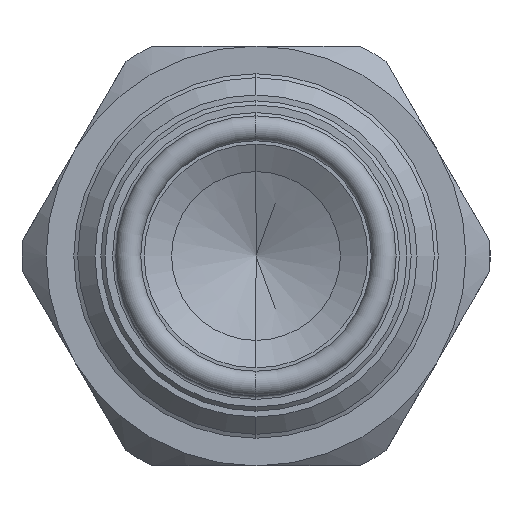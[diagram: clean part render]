
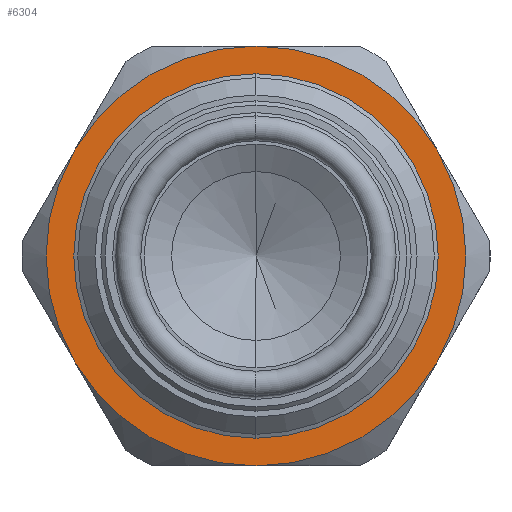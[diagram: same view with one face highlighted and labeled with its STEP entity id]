
A CAD part, left-side view. The second image highlights one B-rep face of the part: STEP entity #6304.
In plain terms, the highlighted planar face has unit normal (-1, 0, 0).
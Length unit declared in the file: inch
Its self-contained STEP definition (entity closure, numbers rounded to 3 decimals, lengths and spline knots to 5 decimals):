
#363 = DIRECTION ( 'NONE',  ( -1., 0., 0. ) ) ;
#815 = CIRCLE ( 'NONE', #11783, 0.3835 ) ;
#827 = AXIS2_PLACEMENT_3D ( 'NONE', #3417, #8620, #16223 ) ;
#979 = DIRECTION ( 'NONE',  ( -1., 0., 0. ) ) ;
#994 = DIRECTION ( 'NONE',  ( -1., 0., 0. ) ) ;
#1114 = CIRCLE ( 'NONE', #13928, 0.5 ) ;
#1232 = FACE_OUTER_BOUND ( 'NONE', #8002, .T. ) ;
#1289 = ORIENTED_EDGE ( 'NONE', *, *, #12551, .T. ) ;
#1352 = CARTESIAN_POINT ( 'NONE',  ( 0.7495, 0., -0.5 ) ) ;
#1522 = DIRECTION ( 'NONE',  ( 0., 0., 1. ) ) ;
#1613 = AXIS2_PLACEMENT_3D ( 'NONE', #12085, #2953, #4452 ) ;
#1869 = AXIS2_PLACEMENT_3D ( 'NONE', #7338, #4509, #6081 ) ;
#2408 = DIRECTION ( 'NONE',  ( 0., 0., 1. ) ) ;
#2429 = CIRCLE ( 'NONE', #7231, 0.5 ) ;
#2953 = DIRECTION ( 'NONE',  ( -1., 0., 0. ) ) ;
#3417 = CARTESIAN_POINT ( 'NONE',  ( 0.7495, 0., 0. ) ) ;
#3597 = ORIENTED_EDGE ( 'NONE', *, *, #7559, .T. ) ;
#3829 = FACE_BOUND ( 'NONE', #5853, .T. ) ;
#4020 = VERTEX_POINT ( 'NONE', #15167 ) ;
#4028 = CIRCLE ( 'NONE', #1613, 0.5 ) ;
#4346 = DIRECTION ( 'NONE',  ( 0., 0., 1. ) ) ;
#4362 = ORIENTED_EDGE ( 'NONE', *, *, #6320, .T. ) ;
#4452 = DIRECTION ( 'NONE',  ( 0., 0., 1. ) ) ;
#4500 = CARTESIAN_POINT ( 'NONE',  ( 0.7495, 0., 0. ) ) ;
#4509 = DIRECTION ( 'NONE',  ( -1., 0., 0. ) ) ;
#5113 = CARTESIAN_POINT ( 'NONE',  ( 0.7495, 0., 0.3835 ) ) ;
#5330 = DIRECTION ( 'NONE',  ( 0., 0., 1. ) ) ;
#5523 = ORIENTED_EDGE ( 'NONE', *, *, #6855, .T. ) ;
#5733 = ORIENTED_EDGE ( 'NONE', *, *, #11055, .F. ) ;
#5775 = PLANE ( 'NONE',  #1869 ) ;
#5853 = EDGE_LOOP ( 'NONE', ( #5733, #16495 ) ) ;
#6081 = DIRECTION ( 'NONE',  ( 0., 0., 1. ) ) ;
#6304 = ADVANCED_FACE ( 'NONE', ( #1232, #3829 ), #5775, .T. ) ;
#6320 = EDGE_CURVE ( 'NONE', #7125, #4020, #14973, .T. ) ;
#6708 = CARTESIAN_POINT ( 'NONE',  ( 0.7495, 0., 0. ) ) ;
#6855 = EDGE_CURVE ( 'NONE', #8997, #16473, #4028, .T. ) ;
#7125 = VERTEX_POINT ( 'NONE', #1352 ) ;
#7127 = VERTEX_POINT ( 'NONE', #5113 ) ;
#7231 = AXIS2_PLACEMENT_3D ( 'NONE', #13870, #994, #2408 ) ;
#7338 = CARTESIAN_POINT ( 'NONE',  ( 0.7495, 0., 0. ) ) ;
#7491 = VERTEX_POINT ( 'NONE', #11805 ) ;
#7504 = CIRCLE ( 'NONE', #827, 0.5 ) ;
#7559 = EDGE_CURVE ( 'NONE', #10045, #7491, #10191, .T. ) ;
#7763 = AXIS2_PLACEMENT_3D ( 'NONE', #12457, #979, #10022 ) ;
#7778 = CIRCLE ( 'NONE', #11514, 0.3835 ) ;
#8002 = EDGE_LOOP ( 'NONE', ( #16088, #3597, #1289, #5523, #15264, #4362 ) ) ;
#8283 = DIRECTION ( 'NONE',  ( -1., 0., 0. ) ) ;
#8620 = DIRECTION ( 'NONE',  ( -1., 0., 0. ) ) ;
#8996 = CARTESIAN_POINT ( 'NONE',  ( 0.7495, 0., -0.3835 ) ) ;
#8997 = VERTEX_POINT ( 'NONE', #9008 ) ;
#9008 = CARTESIAN_POINT ( 'NONE',  ( 0.7495, 0.43301, 0.25 ) ) ;
#10022 = DIRECTION ( 'NONE',  ( 0., 0., 1. ) ) ;
#10045 = VERTEX_POINT ( 'NONE', #14106 ) ;
#10191 = CIRCLE ( 'NONE', #15257, 0.5 ) ;
#10648 = CARTESIAN_POINT ( 'NONE',  ( 0.7495, 0.43301, -0.25 ) ) ;
#10845 = EDGE_CURVE ( 'NONE', #13992, #7127, #815, .T. ) ;
#11055 = EDGE_CURVE ( 'NONE', #7127, #13992, #7778, .T. ) ;
#11514 = AXIS2_PLACEMENT_3D ( 'NONE', #6708, #363, #1522 ) ;
#11588 = EDGE_CURVE ( 'NONE', #4020, #10045, #7504, .T. ) ;
#11650 = EDGE_CURVE ( 'NONE', #16473, #7125, #2429, .T. ) ;
#11783 = AXIS2_PLACEMENT_3D ( 'NONE', #12121, #13284, #5330 ) ;
#11805 = CARTESIAN_POINT ( 'NONE',  ( 0.7495, 0., 0.5 ) ) ;
#11895 = CARTESIAN_POINT ( 'NONE',  ( 0.7495, 0., 0. ) ) ;
#12085 = CARTESIAN_POINT ( 'NONE',  ( 0.7495, 0., 0. ) ) ;
#12121 = CARTESIAN_POINT ( 'NONE',  ( 0.7495, 0., 0. ) ) ;
#12144 = DIRECTION ( 'NONE',  ( 0., 0., 1. ) ) ;
#12457 = CARTESIAN_POINT ( 'NONE',  ( 0.7495, 0., 0. ) ) ;
#12551 = EDGE_CURVE ( 'NONE', #7491, #8997, #1114, .T. ) ;
#13284 = DIRECTION ( 'NONE',  ( -1., 0., 0. ) ) ;
#13384 = DIRECTION ( 'NONE',  ( -1., 0., 0. ) ) ;
#13870 = CARTESIAN_POINT ( 'NONE',  ( 0.7495, 0., 0. ) ) ;
#13928 = AXIS2_PLACEMENT_3D ( 'NONE', #11895, #13384, #12144 ) ;
#13992 = VERTEX_POINT ( 'NONE', #8996 ) ;
#14106 = CARTESIAN_POINT ( 'NONE',  ( 0.7495, -0.43301, 0.25 ) ) ;
#14973 = CIRCLE ( 'NONE', #7763, 0.5 ) ;
#15167 = CARTESIAN_POINT ( 'NONE',  ( 0.7495, -0.43301, -0.25 ) ) ;
#15257 = AXIS2_PLACEMENT_3D ( 'NONE', #4500, #8283, #4346 ) ;
#15264 = ORIENTED_EDGE ( 'NONE', *, *, #11650, .T. ) ;
#16088 = ORIENTED_EDGE ( 'NONE', *, *, #11588, .T. ) ;
#16223 = DIRECTION ( 'NONE',  ( 0., 0., 1. ) ) ;
#16473 = VERTEX_POINT ( 'NONE', #10648 ) ;
#16495 = ORIENTED_EDGE ( 'NONE', *, *, #10845, .F. ) ;
